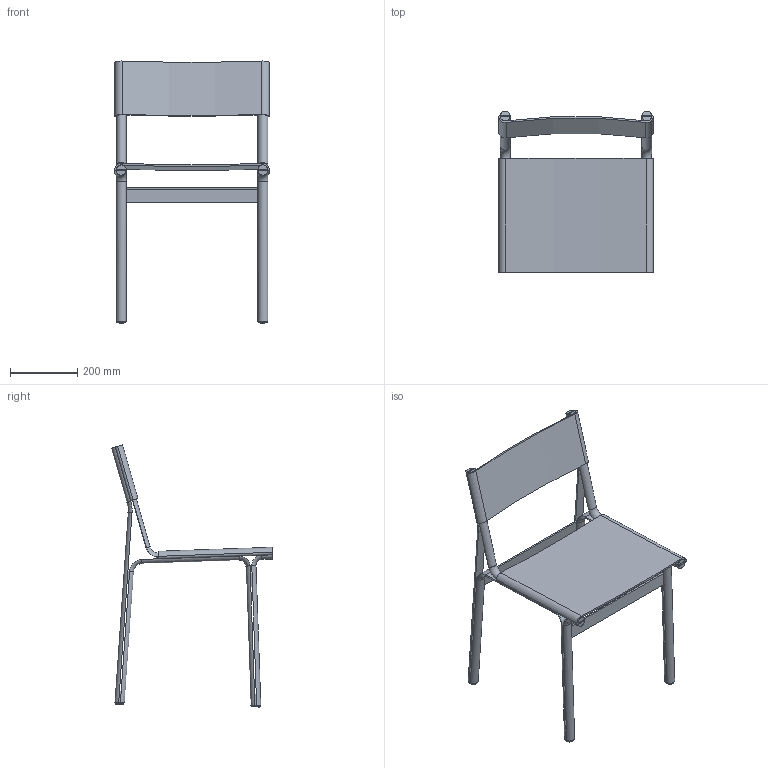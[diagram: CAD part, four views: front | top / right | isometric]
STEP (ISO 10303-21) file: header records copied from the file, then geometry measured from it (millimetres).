
FILE_DESCRIPTION(/* description */ (''),/* implementation_level */ '2;1');
FILE_NAME(/* name */ 'Union_Dining chair-3D.step',/* time_stamp */ '2025-11-07T16:42:17+01:00',/* author */ (''),/* organization */ (''),/* preprocessor_version */ 'ST-DEVELOPER v20.1',/* originating_system */ 'Autodesk Translation Framework v14.17.0.0',/* authorisation */ '');
FILE_SCHEMA (('AUTOMOTIVE_DESIGN { 1 0 10303 214 3 1 1 }'));
Length unit declared in the file: millimetre
Products named in the file (17): Dining_chair; seat_back_connector_R; dining_chiar_foot; central_connector_R; dining_chiar_foot (1); back_horizontal_brace; back_fabric; seat_facbric; front_horizontal_brace; front_leg_R; back_leg_R; seat_back_connector_R(Mirror); dining_chiar_foot(Mirror); central_connector_R(Mirror); dining_chiar_foot (1)(Mirror); front_leg_R(Mirror); back_leg_R(Mirror)
Assembly tree (16 placements, depth 2):
  Dining_chair
    seat_back_connector_R
    dining_chiar_foot
    central_connector_R
    dining_chiar_foot (1)
    back_horizontal_brace
    back_fabric
    seat_facbric
    front_horizontal_brace
    front_leg_R
    back_leg_R
    seat_back_connector_R(Mirror)
    dining_chiar_foot(Mirror)
    central_connector_R(Mirror)
    dining_chiar_foot (1)(Mirror)
    front_leg_R(Mirror)
    back_leg_R(Mirror)
Bounding box: 459.49 x 479.57 x 778.09 mm (x, y, z)
Volume: 3288518.1 mm3; surface area: 1098545.7 mm2
Topology: 16 solids, 16 shells, 184 faces, 384 edges, 236 vertices
Faces by surface type: plane 90, cylinder 50, bspline 32, torus 12
Entity records: 6686 total; most frequent: CARTESIAN_POINT 2349, DIRECTION 824, ORIENTED_EDGE 768, EDGE_CURVE 384, AXIS2_PLACEMENT_3D 303, VERTEX_POINT 236, LINE 218, VECTOR 218
